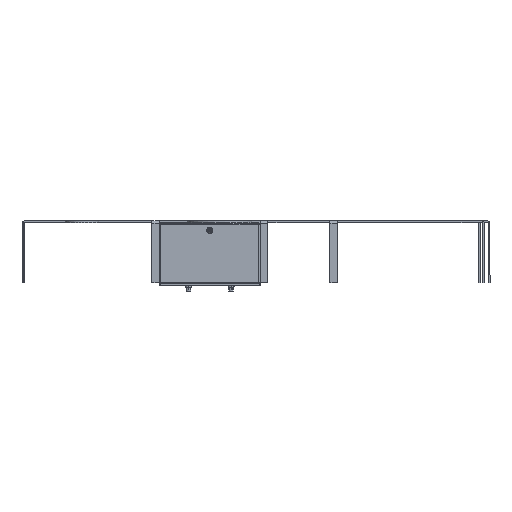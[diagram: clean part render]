
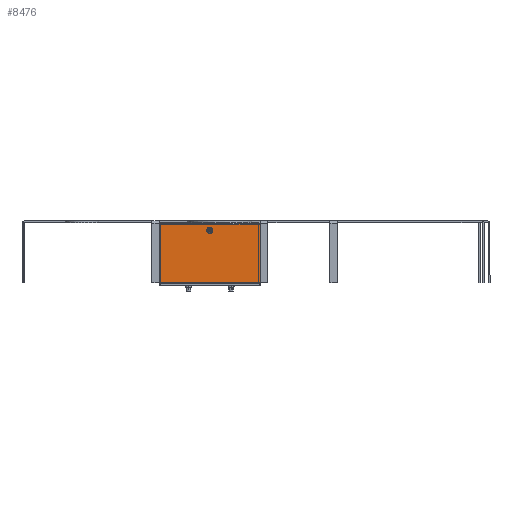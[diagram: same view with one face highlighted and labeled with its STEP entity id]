
A CAD part, left-side view. The second image highlights one B-rep face of the part: STEP entity #8476.
In plain terms, the highlighted planar face has unit normal (-1, 0, 0).
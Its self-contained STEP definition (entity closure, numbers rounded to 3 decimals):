
#29 = VECTOR ( 'NONE', #2858, 1000. ) ;
#73 = ORIENTED_EDGE ( 'NONE', *, *, #4957, .F. ) ;
#168 = EDGE_CURVE ( 'NONE', #6477, #2004, #6547, .T. ) ;
#654 = VERTEX_POINT ( 'NONE', #10765 ) ;
#970 = CARTESIAN_POINT ( 'NONE',  ( -27.5, 78., -65. ) ) ;
#986 = CARTESIAN_POINT ( 'NONE',  ( -27.5, 2.5, 65. ) ) ;
#1308 = CARTESIAN_POINT ( 'NONE',  ( -27.5, 78., 65. ) ) ;
#1323 = DIRECTION ( 'NONE',  ( 0., 0., -1. ) ) ;
#1564 = EDGE_CURVE ( 'NONE', #6779, #6510, #13780, .T. ) ;
#2004 = VERTEX_POINT ( 'NONE', #970 ) ;
#2258 = LINE ( 'NONE', #7853, #7093 ) ;
#2338 = VERTEX_POINT ( 'NONE', #5758 ) ;
#2858 = DIRECTION ( 'NONE',  ( 0., 1., 0. ) ) ;
#2936 = AXIS2_PLACEMENT_3D ( 'NONE', #3465, #7772, #12126 ) ;
#2950 = ORIENTED_EDGE ( 'NONE', *, *, #11960, .T. ) ;
#3000 = VECTOR ( 'NONE', #1323, 1000. ) ;
#3159 = CARTESIAN_POINT ( 'NONE',  ( -27.5, 78., 715. ) ) ;
#3465 = CARTESIAN_POINT ( 'NONE',  ( -27.5, 11.5, 0. ) ) ;
#4401 = AXIS2_PLACEMENT_3D ( 'NONE', #5087, #12657, #10649 ) ;
#4798 = ORIENTED_EDGE ( 'NONE', *, *, #8483, .T. ) ;
#4957 = EDGE_CURVE ( 'NONE', #2338, #2004, #9517, .T. ) ;
#5087 = CARTESIAN_POINT ( 'NONE',  ( -27.5, 78., 715. ) ) ;
#5140 = DIRECTION ( 'NONE',  ( 1., 0., 0. ) ) ;
#5155 = FACE_BOUND ( 'NONE', #8830, .T. ) ;
#5165 = ORIENTED_EDGE ( 'NONE', *, *, #1564, .T. ) ;
#5401 = DIRECTION ( 'NONE',  ( 0., 0., -1. ) ) ;
#5549 = CARTESIAN_POINT ( 'NONE',  ( -27.5, 8.5, -2.25 ) ) ;
#5758 = CARTESIAN_POINT ( 'NONE',  ( -27.5, 2.5, -65. ) ) ;
#6082 = EDGE_CURVE ( 'NONE', #6510, #12376, #2258, .T. ) ;
#6248 = CARTESIAN_POINT ( 'NONE',  ( -27.5, 2.5, -65. ) ) ;
#6306 = PLANE ( 'NONE',  #4401 ) ;
#6430 = CARTESIAN_POINT ( 'NONE',  ( -27.5, 8.5, 2.25 ) ) ;
#6477 = VERTEX_POINT ( 'NONE', #1308 ) ;
#6510 = VERTEX_POINT ( 'NONE', #5549 ) ;
#6528 = EDGE_LOOP ( 'NONE', ( #11922, #4798, #8743, #73 ) ) ;
#6547 = LINE ( 'NONE', #3159, #9905 ) ;
#6562 = DIRECTION ( 'NONE',  ( 0., 1., 0. ) ) ;
#6596 = VECTOR ( 'NONE', #7317, 1000. ) ;
#6779 = VERTEX_POINT ( 'NONE', #7510 ) ;
#7093 = VECTOR ( 'NONE', #6562, 1000. ) ;
#7317 = DIRECTION ( 'NONE',  ( 0., 1., 0. ) ) ;
#7402 = EDGE_CURVE ( 'NONE', #10239, #2338, #9054, .T. ) ;
#7419 = AXIS2_PLACEMENT_3D ( 'NONE', #10568, #5140, #9629 ) ;
#7510 = CARTESIAN_POINT ( 'NONE',  ( -27.5, 8.5, 2.25 ) ) ;
#7570 = LINE ( 'NONE', #6430, #7766 ) ;
#7766 = VECTOR ( 'NONE', #8633, 1000. ) ;
#7772 = DIRECTION ( 'NONE',  ( 1., 0., 0. ) ) ;
#7853 = CARTESIAN_POINT ( 'NONE',  ( -27.5, 8.5, -2.25 ) ) ;
#8476 = ADVANCED_FACE ( 'NONE', ( #9503, #5155 ), #6306, .F. ) ;
#8483 = EDGE_CURVE ( 'NONE', #10239, #6477, #10431, .T. ) ;
#8633 = DIRECTION ( 'NONE',  ( 0., -1., 0. ) ) ;
#8743 = ORIENTED_EDGE ( 'NONE', *, *, #168, .T. ) ;
#8830 = EDGE_LOOP ( 'NONE', ( #5165, #13575, #2950, #12438 ) ) ;
#9054 = LINE ( 'NONE', #12134, #3000 ) ;
#9503 = FACE_OUTER_BOUND ( 'NONE', #6528, .T. ) ;
#9517 = LINE ( 'NONE', #6248, #6596 ) ;
#9629 = DIRECTION ( 'NONE',  ( 0., 0., -1. ) ) ;
#9905 = VECTOR ( 'NONE', #5401, 1000. ) ;
#10239 = VERTEX_POINT ( 'NONE', #986 ) ;
#10431 = LINE ( 'NONE', #10585, #29 ) ;
#10568 = CARTESIAN_POINT ( 'NONE',  ( -27.5, 8.5, 0. ) ) ;
#10585 = CARTESIAN_POINT ( 'NONE',  ( -27.5, 2.5, 65. ) ) ;
#10649 = DIRECTION ( 'NONE',  ( 0., 0., -1. ) ) ;
#10765 = CARTESIAN_POINT ( 'NONE',  ( -27.5, 11.5, 2.25 ) ) ;
#11424 = CARTESIAN_POINT ( 'NONE',  ( -27.5, 11.5, -2.25 ) ) ;
#11922 = ORIENTED_EDGE ( 'NONE', *, *, #7402, .F. ) ;
#11960 = EDGE_CURVE ( 'NONE', #12376, #654, #13665, .T. ) ;
#12126 = DIRECTION ( 'NONE',  ( 0., 0., -1. ) ) ;
#12134 = CARTESIAN_POINT ( 'NONE',  ( -27.5, 2.5, 715. ) ) ;
#12376 = VERTEX_POINT ( 'NONE', #11424 ) ;
#12438 = ORIENTED_EDGE ( 'NONE', *, *, #12659, .T. ) ;
#12657 = DIRECTION ( 'NONE',  ( 1., 0., 0. ) ) ;
#12659 = EDGE_CURVE ( 'NONE', #654, #6779, #7570, .T. ) ;
#13575 = ORIENTED_EDGE ( 'NONE', *, *, #6082, .T. ) ;
#13665 = CIRCLE ( 'NONE', #2936, 2.25 ) ;
#13780 = CIRCLE ( 'NONE', #7419, 2.25 ) ;
